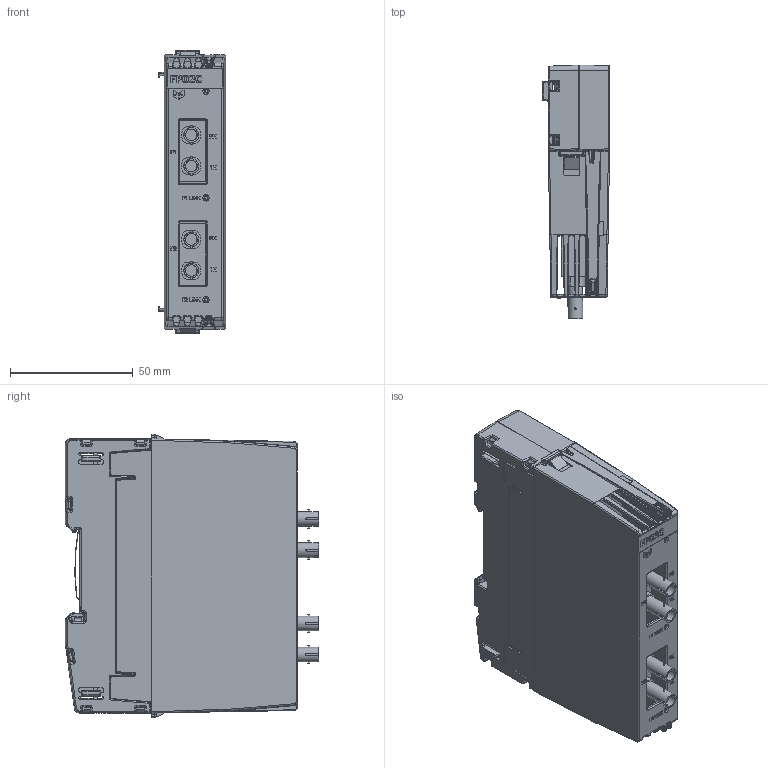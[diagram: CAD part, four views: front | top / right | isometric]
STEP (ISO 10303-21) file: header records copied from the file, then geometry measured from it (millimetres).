
FILE_DESCRIPTION(/* description */ (''),/* implementation_level */ '2;1');
FILE_NAME(/* name */ 'C:\Users\Public\Documents\Autodesk\Inventor 2023\FP02C_Simplified+BackBB81A.stp',/* time_stamp */ '2024-11-12T20:48:49+01:00',/* author */ ('shoma'),/* organization */ (''),/* preprocessor_version */ 'ST-DEVELOPER v19',/* originating_system */ 'Autodesk Inventor 2023',/* authorisation */ '');
FILE_SCHEMA (('AUTOMOTIVE_DESIGN { 1 0 10303 214 3 1 1 }'));
Products named in the file (1): FP02C_Simplified+BackBB81A
Bounding box: 27.4 x 103.12 x 115.5 mm (x, y, z)
Volume: 129084.3 mm3; surface area: 77010.8 mm2
Topology: 8 solids, 8 shells, 4816 faces, 12908 edges, 8063 vertices
Faces by surface type: plane 2353, cylinder 1750, bspline 519, sphere 156, torus 23, cone 15
Full cylindrical faces by diameter (mm): 0.016 x2, 0.3 x38, 0.7 x36, 0.75 x8, 0.8 x6, 0.85 x24, 0.9 x8, 1 x8, 1.27 x4, 1.4 x4, 1.6 x2, 1.9 x2, 2.35 x2, 2.5 x1, 2.6 x4, 3 x1, 3.25 x2, 4.75 x4, 6 x4
Entity records: 168706 total; most frequent: CARTESIAN_POINT 43834, ORIENTED_EDGE 25516, DIRECTION 24496, EDGE_CURVE 12758, AXIS2_PLACEMENT_3D 8183, LINE 8130, VECTOR 8130, VERTEX_POINT 8063
